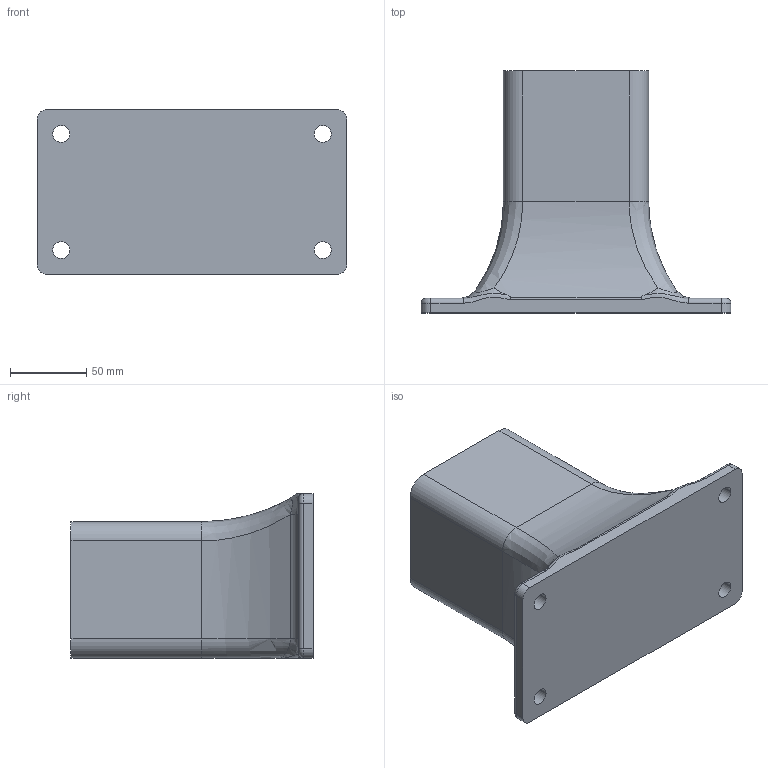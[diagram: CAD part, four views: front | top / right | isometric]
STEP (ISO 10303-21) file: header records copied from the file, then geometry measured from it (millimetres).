
FILE_DESCRIPTION (( 'STEP AP214' ), '1' );
FILE_NAME ('030-040 Universal 3 Pedestal 6.25 inch.STEP', '2017-11-02T19:30:49', ( '' ), ( '' ), 'SwSTEP 2.0', 'SolidWorks 2014', '' );
FILE_SCHEMA (( 'AUTOMOTIVE_DESIGN' ));
Length unit declared in the file: inch
Products named in the file (1): 030-040 Universal 3 Pedestal 6.25 inch
Bounding box: 203.2 x 158.75 x 107.95 mm (x, y, z)
Volume: 1582377.6 mm3; surface area: 100283 mm2
Topology: 1 solids, 1 shells, 67 faces, 161 edges, 98 vertices
Faces by surface type: cylinder 36, plane 15, bspline 10, torus 6
Entity records: 3051 total; most frequent: CARTESIAN_POINT 1479, DIRECTION 321, ORIENTED_EDGE 318, EDGE_CURVE 159, AXIS2_PLACEMENT_3D 130, VERTEX_POINT 98, EDGE_LOOP 79, CIRCLE 72
